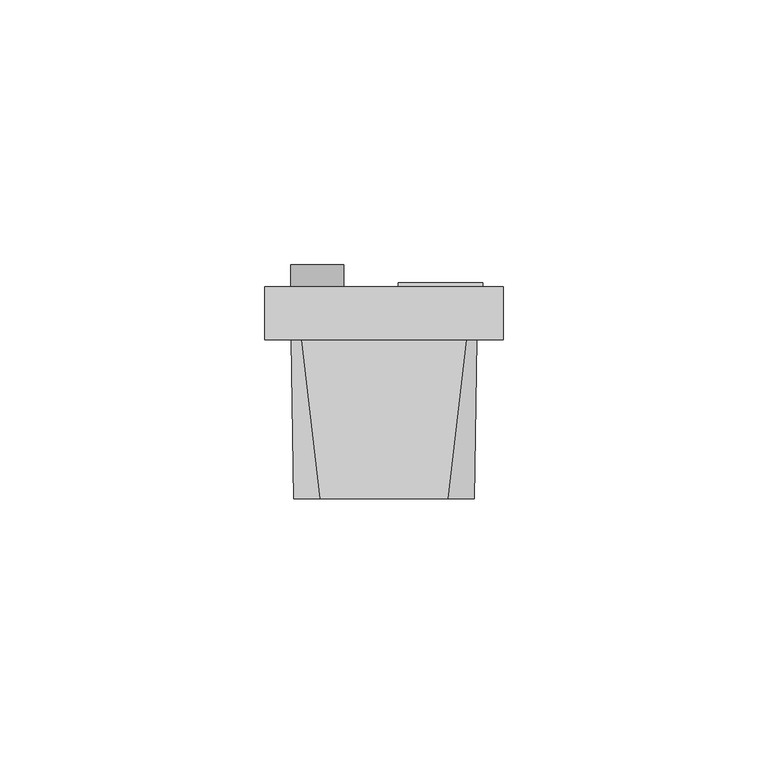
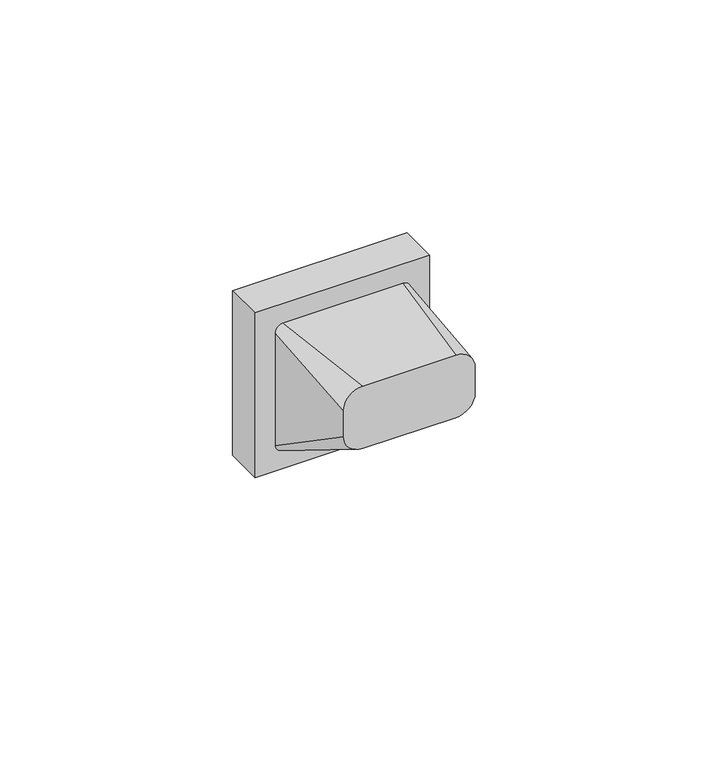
"""IFC4 building model written with IfcOpenShell, lengths in millimetres: proxy geometry, IEK_Skandy_Механизм розетки мультимедийной : TV+RJ45_SK-A14B."""

from ifc_helpers import new_model, si_unit, frame, origin, place, context, project, spatial, polyline, circle_curve, outline, extrude, source, transform, mapped, element, save
from ifc_brep_helpers import plane_surface, cylinder_surface, revolved_surface, spline_surface, advanced_brep


def electrical_fixtures_86e99d6b(model_context):
    return source(origin(), model_context, "Body", "SolidModel", [
        extrude(outline(polyline([(0.0, -2.0472767), (0.0, 0.0), (15.9203522, 0.0), (15.9203522, -2.0472767), (0.0, -2.0472767)])), frame((2.7339657, 10.4018122, 8.6669379), z_axis=(0.0, 0.3420201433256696, 0.9396926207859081), x_axis=(1.0, 0.0, 0.0)), (0.0, 0.0, 1.0), 1.1350324),
        advanced_brep(
        [(-22.5, 10.0, 22.5), (22.5, 10.0, 22.5), (22.5, 10.0, -22.5), (-22.5, 10.0, -22.5), (-19.6284308, 10.0, 0.0), (-5.6284308, 10.0, 0.0), (20.5255633, 10.0, -10.479217), (20.5255633, 10.0, 10.625), (18.6543179, 10.0, 10.625), (2.7339657, 10.0, 10.625), (0.5255633, 10.0, 10.625), (0.5255633, 10.0, -10.479217), (-22.5, 0.0, 22.5), (-22.5, 0.0, -22.5), (22.5, 0.0, -22.5), (22.5, 0.0, 22.5), (-19.6284308, 0.7243142, 0.0), (-5.6284308, 0.7243142, 0.0), (20.5255633, 4.3684205, -4.8476375), (0.5255633, 4.3684205, -4.8476375), (2.7339657, 5.1767352, -2.626811), (18.6543179, 5.1767352, -2.626811), (18.6543179, 4.2370426, -2.2847909), (2.7339657, 4.2370426, -2.2847909), (2.7339657, 9.0603074, 10.9670201), (18.6543179, 9.0603074, 10.9670201)],
        [
            (0, 1),
            (1, 2),
            (2, 3),
            (3, 0),
            (4, 5, circle_curve(frame((-12.6284308, 10.0, 0.0), z_axis=(0.0, -1.0, 0.0), x_axis=(1.0, 0.0, 0.0)), 7.0)),
            (5, 4, circle_curve(frame((-12.6284308, 10.0, 0.0), z_axis=(0.0, -1.0, 0.0), x_axis=(1.0, 0.0, 0.0)), 7.0)),
            (6, 7),
            (7, 8),
            (8, 9),
            (9, 10),
            (10, 11),
            (11, 6),
            (12, 13),
            (13, 14),
            (14, 15),
            (15, 12),
            (3, 13),
            (12, 0),
            (2, 14),
            (1, 15),
            (16, 17, circle_curve(frame((-12.6284308, 0.7243142, 0.0), z_axis=(0.0, 1.0, 0.0), x_axis=(1.0, 0.0, 0.0)), 7.0)),
            (17, 16, circle_curve(frame((-12.6284308, 0.7243142, 0.0), z_axis=(0.0, 1.0, 0.0), x_axis=(1.0, 0.0, 0.0)), 7.0)),
            (17, 5),
            (4, 16),
            (18, 7),
            (6, 18),
            (19, 11),
            (10, 19),
            (19, 18),
            (9, 20),
            (20, 21),
            (21, 8),
            (22, 23),
            (23, 24),
            (24, 25),
            (25, 22),
            (25, 8),
            (21, 22),
            (24, 9),
            (23, 20),
        ],
        [
            plane_surface(frame((-22.5, 10.0, -22.5), z_axis=(0.0, 1.0, 0.0), x_axis=(0.0, 0.0, 1.0))),
            plane_surface(frame((-22.5, 0.0, -22.5), z_axis=(0.0, -1.0, 0.0), x_axis=(0.0, 0.0, -1.0))),
            plane_surface(frame((-22.5, 0.0, 22.5), z_axis=(-1.0, 0.0, 0.0), x_axis=(0.0, 1.0, 0.0))),
            plane_surface(frame((-22.5, 0.0, -22.5), z_axis=(0.0, 0.0, -1.0), x_axis=(0.0, 1.0, 0.0))),
            plane_surface(frame((22.5, 0.0, -22.5), z_axis=(1.0, 0.0, 0.0), x_axis=(0.0, 1.0, 0.0))),
            plane_surface(frame((22.5, 0.0, 22.5), z_axis=(0.0, 0.0, 1.0), x_axis=(0.0, 1.0, 0.0))),
            plane_surface(frame((-5.6284308, 0.7243142, 0.0), z_axis=(0.0, 1.0, 0.0), x_axis=(0.0, 0.0, 1.0))),
            revolved_surface(polyline([(-5.6284308, 0.7243142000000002, 0.0), (-5.6284308, 10.0, 0.0)]), (-12.6284308, 10.0, 0.0), (0.0, -1.0, 0.0)),
            plane_surface(frame((20.5255633, 4.3684205, -4.8476375), z_axis=(-1.0, 0.0, 0.0), x_axis=(0.0, 0.7071067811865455, -0.7071067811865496))),
            plane_surface(frame((0.5255633, 4.3684205, -4.8476375), z_axis=(1.0, 0.0, 0.0), x_axis=(0.0, -0.7071067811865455, 0.7071067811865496))),
            plane_surface(frame((20.5255633, 4.3684205, -4.8476375), z_axis=(0.0, 0.7071067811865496, 0.7071067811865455), x_axis=(-1.0, 0.0, 0.0))),
            plane_surface(frame((20.5255633, 10.0, 10.625), z_axis=(0.0, 0.9396926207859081, -0.3420201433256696), x_axis=(-1.0, 0.0, 0.0))),
            plane_surface(frame((18.6543179, 9.0603074, 10.9670201), z_axis=(0.0, 0.9396926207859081, -0.34202014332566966), x_axis=(0.0, 0.34202014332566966, 0.9396926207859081))),
            plane_surface(frame((18.6543179, 4.2370426, -2.2847909), z_axis=(-1.0, 0.0, 0.0), x_axis=(0.0, 0.9396926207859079, -0.3420201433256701))),
            plane_surface(frame((18.6543179, 9.0603074, 10.9670201), z_axis=(0.0, -0.3420201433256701, -0.9396926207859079), x_axis=(0.0, 0.9396926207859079, -0.3420201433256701))),
            plane_surface(frame((2.7339657, 9.0603074, 10.9670201), z_axis=(1.0, 0.0, 0.0), x_axis=(0.0, 0.939692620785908, -0.34202014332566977))),
            plane_surface(frame((2.7339657, 4.2370426, -2.2847909), z_axis=(0.0, 0.3420201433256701, 0.9396926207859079), x_axis=(0.0, 0.9396926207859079, -0.3420201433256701))),
        ],
        [
            (0, [[1, 2, 3, 4], [5, 6], [7, 8, 9, 10, 11, 12]]),
            (1, [[13, 14, 15, 16]]),
            (2, [[-4, 17, -13, 18]]),
            (3, [[-3, 19, -14, -17]]),
            (4, [[-2, 20, -15, -19]]),
            (5, [[-1, -18, -16, -20]]),
            (6, [[21, 22]]),
            (7, [[-22, 23, -5, 24]]),
            (7, [[-21, -24, -6, -23]]),
            (8, [[25, -7, 26]]),
            (9, [[27, -11, 28]]),
            (10, [[-26, -12, -27, 29]]),
            (11, [[-25, -29, -28, -10, 30, 31, 32, -8]]),
            (12, [[33, 34, 35, 36]]),
            (13, [[-36, 37, -32, 38]]),
            (14, [[-35, 39, -9, -37]]),
            (15, [[-34, 40, -30, -39]]),
            (16, [[-33, -38, -31, -40]]),
        ],
    ),
        advanced_brep(
        [(-12.6284308, 13.2712404, 0.0), (-11.7257819, 13.2712404, 0.0), (-13.5310797, 13.2712404, 0.0), (-13.5310797, 0.7271355, 0.0), (-11.7257819, 0.7271355, 0.0), (-12.6284308, 0.7271355, 0.0)],
        [
            (0, 1),
            (1, 2, circle_curve(frame((-12.6284308, 13.2712404, 0.0), z_axis=(0.0, 1.0, 0.0), x_axis=(1.0, 0.0, 0.0)), 0.9026489)),
            (2, 0),
            (2, 1, circle_curve(frame((-12.6284308, 13.2712404, 0.0), z_axis=(0.0, 1.0, 0.0), x_axis=(1.0, 0.0, 0.0)), 0.9026489)),
            (3, 4, circle_curve(frame((-12.6284308, 0.7271355, 0.0), z_axis=(0.0, -1.0, 0.0), x_axis=(1.0, 0.0, 0.0)), 0.9026489)),
            (4, 5),
            (5, 3),
            (4, 3, circle_curve(frame((-12.6284308, 0.7271355, 0.0), z_axis=(0.0, -1.0, 0.0), x_axis=(1.0, 0.0, 0.0)), 0.9026489)),
            (1, 4),
            (3, 2),
        ],
        [
            plane_surface(frame((-12.6284308, 13.2712404, 0.0), z_axis=(0.0, 1.0, 0.0), x_axis=(1.0, 0.0, 0.0))),
            plane_surface(frame((-12.6284308, 0.7271355, 0.0), z_axis=(0.0, -1.0, 0.0), x_axis=(1.0, 0.0, 0.0))),
            cylinder_surface(frame((-12.6284308, 0.0, 0.0), z_axis=(0.0, 1.0, 0.0), x_axis=(1.0, 0.0, 0.0)), 0.9026489),
        ],
        [
            (0, [[1, 2, 3]]),
            (0, [[-3, 4, -1]]),
            (1, [[5, 6, 7]]),
            (1, [[8, -7, -6]]),
            (2, [[-2, 9, -5, 10]]),
            (2, [[-4, -10, -8, -9]]),
        ],
    ),
        advanced_brep(
        [(-17.6284308, 0.7243142, 0.0), (-7.6284308, 0.7243142, 0.0), (-8.6079002, 0.7243142, 0.0), (-16.6489614, 0.7243142, 0.0), (-8.6079002, 11.0, 0.0), (-16.6489614, 11.0, 0.0), (-8.6079002, 14.1430385, 0.0), (-16.6489614, 14.1430385, 0.0), (-7.6284308, 14.1430385, 0.0), (-17.6284308, 14.1430385, 0.0)],
        [
            (0, 1, circle_curve(frame((-12.6284308, 0.7243142, 0.0), z_axis=(0.0, -1.0, 0.0), x_axis=(1.0, 0.0, 0.0)), 5.0)),
            (1, 2),
            (2, 3, circle_curve(frame((-12.6284308, 0.7243142, 0.0), z_axis=(0.0, 1.0, 0.0), x_axis=(1.0, 0.0, 0.0)), 4.0205306)),
            (3, 0),
            (1, 0, circle_curve(frame((-12.6284308, 0.7243142, 0.0), z_axis=(0.0, -1.0, 0.0), x_axis=(1.0, 0.0, 0.0)), 5.0)),
            (3, 2, circle_curve(frame((-12.6284308, 0.7243142, 0.0), z_axis=(0.0, 1.0, 0.0), x_axis=(1.0, 0.0, 0.0)), 4.0205306)),
            (2, 4),
            (4, 5, circle_curve(frame((-12.6284308, 11.0, 0.0), z_axis=(0.0, 1.0, 0.0), x_axis=(1.0, 0.0, 0.0)), 4.0205306)),
            (5, 3),
            (5, 4, circle_curve(frame((-12.6284308, 11.0, 0.0), z_axis=(0.0, 1.0, 0.0), x_axis=(1.0, 0.0, 0.0)), 4.0205306)),
            (4, 6),
            (6, 7, circle_curve(frame((-12.6284308, 14.1430385, 0.0), z_axis=(0.0, 1.0, 0.0), x_axis=(1.0, 0.0, 0.0)), 4.0205306)),
            (7, 5),
            (7, 6, circle_curve(frame((-12.6284308, 14.1430385, 0.0), z_axis=(0.0, 1.0, 0.0), x_axis=(1.0, 0.0, 0.0)), 4.0205306)),
            (6, 8),
            (8, 9, circle_curve(frame((-12.6284308, 14.1430385, 0.0), z_axis=(0.0, 1.0, 0.0), x_axis=(1.0, 0.0, 0.0)), 5.0)),
            (9, 7),
            (9, 8, circle_curve(frame((-12.6284308, 14.1430385, 0.0), z_axis=(0.0, 1.0, 0.0), x_axis=(1.0, 0.0, 0.0)), 5.0)),
            (8, 1),
            (0, 9),
        ],
        [
            plane_surface(frame((-12.6284308, 0.7243142, 0.0), z_axis=(0.0, -1.0, 0.0), x_axis=(1.0, 0.0, 0.0))),
            revolved_surface(polyline([(-8.6079002, 11.0, 0.0), (-8.6079002, 0.7243142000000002, 0.0)]), (-12.6284308, 10.0, 0.0), (0.0, 1.0, 0.0)),
            revolved_surface(polyline([(-8.6079002, 14.1430385, 0.0), (-8.6079002, 11.0, 0.0)]), (-12.6284308, 10.0, 0.0), (0.0, 1.0, 0.0)),
            plane_surface(frame((-12.6284308, 14.1430385, 0.0), z_axis=(0.0, 1.0, 0.0), x_axis=(1.0, 0.0, 0.0))),
            cylinder_surface(frame((-12.6284308, 10.0, 0.0), z_axis=(0.0, 1.0, 0.0), x_axis=(1.0, 0.0, 0.0)), 5.0),
        ],
        [
            (0, [[1, 2, 3, 4]]),
            (0, [[5, -4, 6, -2]]),
            (1, [[-3, 7, 8, 9]]),
            (1, [[-6, -9, 10, -7]]),
            (2, [[-8, 11, 12, 13]]),
            (2, [[-10, -13, 14, -11]]),
            (3, [[-12, 15, 16, 17]]),
            (3, [[-14, -17, 18, -15]]),
            (4, [[-16, 19, -1, 20]]),
            (4, [[-18, -20, -5, -19]]),
        ],
    ),
        advanced_brep(
        [(-12.0, -30.0, 17.0), (-17.0, -30.0, 12.0), (-17.0, -30.0, 5.0), (-12.0, -30.0, 0.0), (12.0, -30.0, 0.0), (17.0, -30.0, 5.0), (17.0, -30.0, 12.0), (12.0, -30.0, 17.0), (-15.5, 0.0, 17.5), (15.5, 0.0, 17.5), (17.5, 0.0, 15.5), (17.5, 0.0, -15.5), (15.5, 0.0, -17.5), (-15.5, 0.0, -17.5), (-17.5, 0.0, -15.5), (-17.5, 0.0, 15.5)],
        [
            (0, 1, circle_curve(frame((-12.0, -30.0, 12.0), z_axis=(0.0, -1.0, 0.0), x_axis=(1.0, 0.0, 0.0)), 5.0)),
            (1, 2),
            (2, 3, circle_curve(frame((-12.0, -30.0, 5.0), z_axis=(0.0, -1.0, 0.0), x_axis=(1.0, 0.0, 0.0)), 5.0)),
            (3, 4),
            (4, 5, circle_curve(frame((12.0, -30.0, 5.0), z_axis=(0.0, -1.0, 0.0), x_axis=(1.0, 0.0, 0.0)), 5.0)),
            (5, 6),
            (6, 7, circle_curve(frame((12.0, -30.0, 12.0), z_axis=(0.0, -1.0, 0.0), x_axis=(1.0, 0.0, 0.0)), 5.0)),
            (7, 0),
            (8, 9),
            (9, 10, circle_curve(frame((15.5, 0.0, 15.5), z_axis=(0.0, 1.0, 0.0), x_axis=(1.0, 0.0, 0.0)), 2.0)),
            (10, 11),
            (11, 12, circle_curve(frame((15.5, 0.0, -15.5), z_axis=(0.0, 1.0, 0.0), x_axis=(1.0, 0.0, 0.0)), 2.0)),
            (12, 13),
            (13, 14, circle_curve(frame((-15.5, 0.0, -15.5), z_axis=(0.0, 1.0, 0.0), x_axis=(1.0, 0.0, 0.0)), 2.0)),
            (14, 15),
            (15, 8, circle_curve(frame((-15.5, 0.0, 15.5), z_axis=(0.0, 1.0, 0.0), x_axis=(1.0, 0.0, 0.0)), 2.0)),
            (8, 0),
            (7, 9),
            (6, 10),
            (5, 11),
            (4, 12),
            (3, 13),
            (15, 1),
            (14, 2),
        ],
        [
            plane_surface(frame((0.0, -30.0, 8.5), z_axis=(0.0, -1.0, 0.0), x_axis=(-1.0, 0.0, 0.0))),
            plane_surface(frame((0.0, 0.0, 0.0), z_axis=(0.0, 1.0, 0.0), x_axis=(-1.0, 0.0, 0.0))),
            plane_surface(frame((0.0, 0.0, 17.5), z_axis=(0.0, -0.01666435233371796, 0.9998611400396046), x_axis=(-1.0, 0.0, 0.0))),
            spline_surface(2, 1, [[(17.5, 0.0, 15.5), (17.0, -30.0, 12.0)], [(17.5, 0.0, 17.5), (17.0, -30.0, 17.0)], [(15.5, 0.0, 17.5), (12.0, -30.0, 17.0)]], [3, 3], [2, 2], [0.0, 1.0], [0.0, 1.0], weights=[[1.0, 1.0], [0.7071067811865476, 0.7071067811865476], [1.0, 1.0]]),
            plane_surface(frame((17.5, 0.0, 0.0), z_axis=(0.9998611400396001, -0.016664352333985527, 0.0), x_axis=(0.0, 0.0, 1.0))),
            spline_surface(2, 1, [[(15.5, 0.0, -17.5), (12.0, -30.0, 0.0)], [(17.5, 0.0, -17.5), (17.0, -30.0, 0.0)], [(17.5, 0.0, -15.5), (17.0, -30.0, 5.0)]], [3, 3], [2, 2], [0.0, 1.0], [0.0, 1.0], weights=[[1.0, 1.0], [0.7071067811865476, 0.7071067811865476], [1.0, 1.0]]),
            plane_surface(frame((0.0, 0.0, -17.5), z_axis=(0.0, -0.5038710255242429, -0.863778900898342), x_axis=(1.0, 0.0, 0.0))),
            spline_surface(2, 1, [[(-15.5, 0.0, 17.5), (-12.0, -30.0, 17.0)], [(-17.5, 0.0, 17.5), (-17.0, -30.0, 17.0)], [(-17.5, 0.0, 15.5), (-17.0, -30.0, 12.0)]], [3, 3], [2, 2], [0.0, 1.0], [0.0, 1.0], weights=[[1.0, 1.0], [0.7071067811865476, 0.7071067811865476], [1.0, 1.0]]),
            plane_surface(frame((-17.5, 0.0, 0.0), z_axis=(-0.9998611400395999, -0.01666435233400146, 0.0), x_axis=(0.0, 0.0, -1.0))),
            spline_surface(2, 1, [[(-17.5, 0.0, -15.5), (-17.0, -30.0, 5.0)], [(-17.5, 0.0, -17.5), (-17.0, -30.0, 0.0)], [(-15.5, 0.0, -17.5), (-12.0, -30.0, 0.0)]], [3, 3], [2, 2], [0.0, 1.0], [0.0, 1.0], weights=[[1.0, 1.0], [0.7071067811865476, 0.7071067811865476], [1.0, 1.0]]),
        ],
        [
            (0, [[1, 2, 3, 4, 5, 6, 7, 8]]),
            (1, [[9, 10, 11, 12, 13, 14, 15, 16]]),
            (2, [[-9, 17, -8, 18]]),
            (3, [[-10, -18, -7, 19]]),
            (4, [[-11, -19, -6, 20]]),
            (5, [[-12, -20, -5, 21]]),
            (6, [[-13, -21, -4, 22]]),
            (7, [[-16, 23, -1, -17]]),
            (8, [[-15, 24, -2, -23]]),
            (9, [[-14, -22, -3, -24]]),
        ],
    ),
    ])


if __name__ == "__main__":
    model = new_model("IFC4")
    model_context = context("Model", 3, world=origin())
    ifc_project = project(units=[si_unit("LENGTHUNIT", "METRE", prefix="MILLI")], contexts=[model_context])
    site = spatial("IfcSite", under=ifc_project)
    building = spatial("IfcBuilding", under=site)
    placement = place(None, origin())
    electrical_fixtures_shape = electrical_fixtures_86e99d6b(model_context)
    element("IfcBuildingElementProxy", 1, Name="IEK_Skandy_Механизм розетки мультимедийной : TV+RJ45_SK-A14B", ObjectType="IEK_Skandy_Механизм розетки мультимедийной : TV+RJ45_SK-A14B", at=placement, inside=building, context=model_context, shape_type="MappedRepresentation", body=[
        mapped(electrical_fixtures_shape, transform((0.0, 0.0, 0.0), x_axis=(1.0, 0.0, 0.0), y_axis=(0.0, 1.0, 0.0), z_axis=(0.0, 0.0, 1.0))),
    ])
    save(model, "model.ifc")
